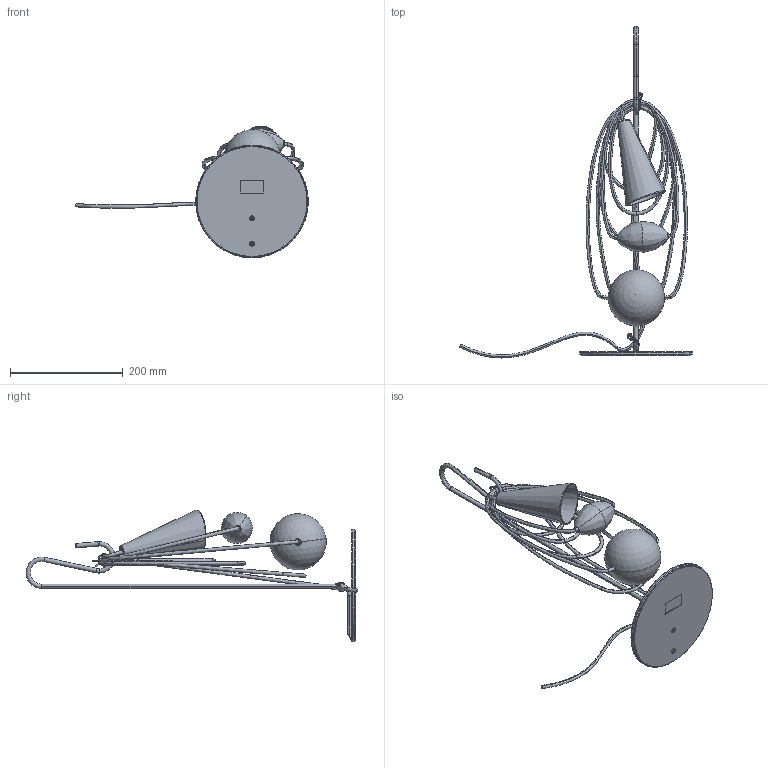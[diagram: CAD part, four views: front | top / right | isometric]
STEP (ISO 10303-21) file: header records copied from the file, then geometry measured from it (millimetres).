
FILE_DESCRIPTION (( 'STEP AP214' ), '1' );
FILE_NAME ('289_STD_T_PL_3D.STEP', '2021-05-05T10:55:05', ( '' ), ( '' ), 'SwSTEP 2.0', 'SolidWorks 2021', '' );
FILE_SCHEMA (( 'AUTOMOTIVE_DESIGN' ));
Length unit declared in the file: millimetre
Products named in the file (1): 289_STD_T_PL_3D
Bounding box: 412.75 x 588.55 x 233.58 mm (x, y, z)
Volume: 599642.5 mm3; surface area: 376497.3 mm2
Topology: 21 solids, 21 shells, 459 faces, 1088 edges, 642 vertices
Faces by surface type: cylinder 121, plane 105, bspline 90, torus 84, cone 55, sphere 4
Entity records: 29321 total; most frequent: CARTESIAN_POINT 13829, DIRECTION 2198, ORIENTED_EDGE 2136, EDGE_CURVE 1068, AXIS2_PLACEMENT_3D 928, VERTEX_POINT 638, CIRCLE 558, EDGE_LOOP 498
